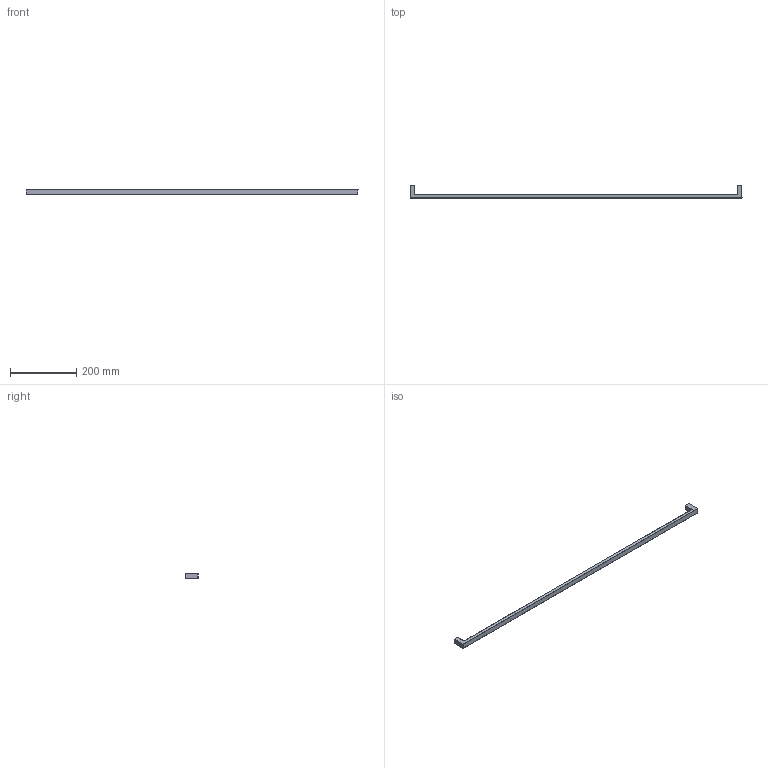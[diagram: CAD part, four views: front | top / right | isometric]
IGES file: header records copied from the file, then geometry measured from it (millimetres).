
Start section: Data from Parasolid IGES Translator 15.0.47, Copyright(c) 2006 Siemens P LM Software. All Rights Reserved.
Global section: file name: 9207358.igs; native system:  By UGS Corp.; preprocessor: XPlus GENERIC/IGES 3.0; author: Noname; organization: Noname; date: 20151204.114042; units: millimetre
Bounding box: 999 x 37.01 x 16 mm (x, y, z)
Surface area: 54904.1 mm2 (no closed solid volume)
Topology: 0 solids, 0 shells, 34 faces, 164 edges, 162 vertices
Faces by surface type: revolution 18, extrusion 16
